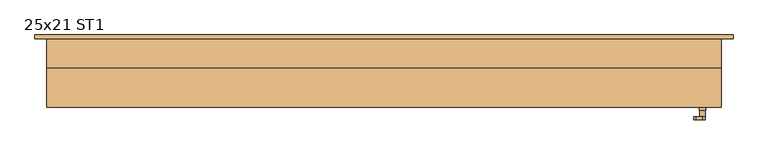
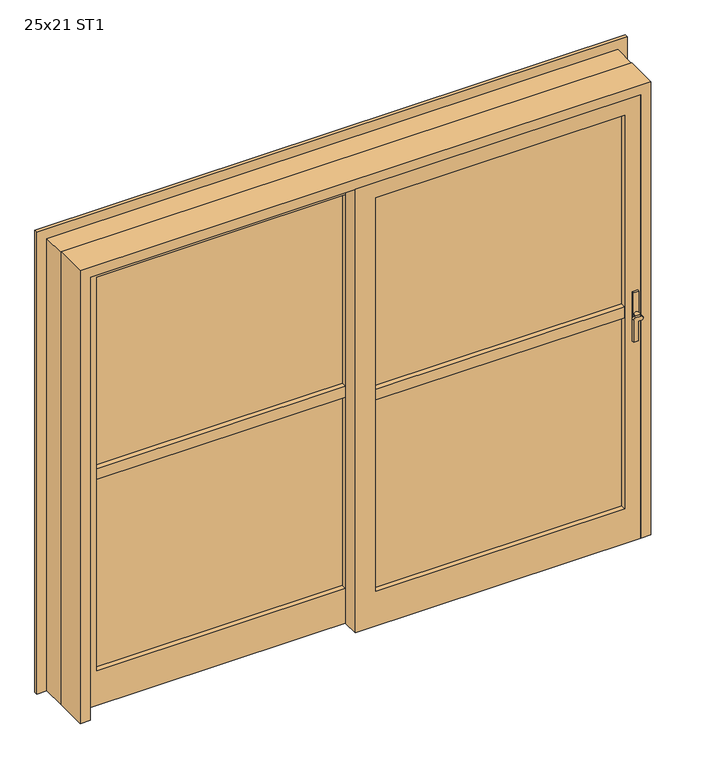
"""IFC4 building model written with IfcOpenShell, lengths in millimetres: door geometry, Balkongdor ST 1 : 25x21 ST1."""

from ifc_helpers import new_model, si_unit, point, frame, frame_2d, origin, place, context, project, spatial, polyline, circle_curve, trimmed, segment, composite_curve, outline, extrude, faceted_brep, source, transform, mapped, element, save


def door_25x21_st1_800ea007(model_context):
    return source(origin(), model_context, "Body", "SolidModel", [
        extrude(outline(composite_curve([segment(trimmed(circle_curve(frame_2d((1050.0, 1152.0)), 10.0), [point((1060.0, 1152.0))], [point((1050.0, 1142.0))], False, "CARTESIAN"), True, "CONTINUOUS"), segment(polyline([(1050.0, 1142.0), (950.0, 1142.0), (950.0, 1162.0), (1040.0, 1162.0), (1040.0, 1174.0)]), True, "CONTINUOUS"), segment(trimmed(circle_curve(frame_2d((1050.0, 1174.0)), 10.0), [point((1040.0, 1174.0))], [point((1060.0, 1174.0))], False, "CARTESIAN"), True, "CONTINUOUS"), segment(polyline([(1060.0, 1174.0), (1060.0, 1152.0)]), True, "CONTINUOUS")], self_intersect=False)), frame((0.0, -15.0, 0.0), z_axis=(0.0, 1.0, 0.0), x_axis=(0.0, 0.0, 1.0)), (0.0, 0.0, 1.0), 10.0),
        extrude(outline(composite_curve([segment(trimmed(circle_curve(frame_2d((1050.0, 1174.0)), 10.0), [point((1050.0, 1184.0))], [point((1050.0, 1164.0))], False, "CARTESIAN"), True, "CONTINUOUS"), segment(trimmed(circle_curve(frame_2d((1050.0, 1174.0)), 10.0), [point((1050.0, 1164.0))], [point((1050.0, 1184.0))], False, "CARTESIAN"), True, "CONTINUOUS")], self_intersect=False)), frame((0.0, -40.0, 0.0), z_axis=(0.0, 1.0, 0.0), x_axis=(0.0, 0.0, 1.0)), (0.0, 0.0, 1.0), 25.0),
        extrude(outline(polyline([(1162.0, -40.0), (1186.0, -40.0), (1186.0, -50.0), (1162.0, -50.0), (1162.0, -40.0)])), frame((0.0, 0.0, 1020.0), z_axis=(0.0, 0.0, 1.0), x_axis=(1.0, 0.0, 0.0)), (0.0, 0.0, 1.0), 130.0),
        extrude(outline(composite_curve([segment(trimmed(circle_curve(frame_2d((1050.0, 1152.0)), 10.0), [point((1060.0, 1152.0))], [point((1050.0, 1142.0))], False, "CARTESIAN"), True, "CONTINUOUS"), segment(polyline([(1050.0, 1142.0), (950.0, 1142.0), (950.0, 1162.0), (1040.0, 1162.0), (1040.0, 1174.0)]), True, "CONTINUOUS"), segment(trimmed(circle_curve(frame_2d((1050.0, 1174.0)), 10.0), [point((1040.0, 1174.0))], [point((1060.0, 1174.0))], False, "CARTESIAN"), True, "CONTINUOUS"), segment(polyline([(1060.0, 1174.0), (1060.0, 1152.0)]), True, "CONTINUOUS")], self_intersect=False)), frame((0.0, -165.0, 0.0), z_axis=(0.0, 1.0, 0.0), x_axis=(0.0, 0.0, 1.0)), (0.0, 0.0, 1.0), 10.0),
        extrude(outline(composite_curve([segment(trimmed(circle_curve(frame_2d((1050.0, 1174.0)), 10.0), [point((1050.0, 1184.0))], [point((1050.0, 1164.0))], False, "CARTESIAN"), True, "CONTINUOUS"), segment(trimmed(circle_curve(frame_2d((1050.0, 1174.0)), 10.0), [point((1050.0, 1164.0))], [point((1050.0, 1184.0))], False, "CARTESIAN"), True, "CONTINUOUS")], self_intersect=False)), frame((0.0, -155.0, 0.0), z_axis=(0.0, 1.0, 0.0), x_axis=(0.0, 0.0, 1.0)), (0.0, 0.0, 1.0), 25.0),
        extrude(outline(polyline([(1162.0, -130.0), (1162.0, -120.0), (1186.0, -120.0), (1186.0, -130.0), (1162.0, -130.0)])), frame((0.0, 0.0, 1020.0), z_axis=(0.0, 0.0, 1.0), x_axis=(1.0, 0.0, 0.0)), (0.0, 0.0, 1.0), 130.0),
        extrude(outline(polyline([(-45.0, 1.0), (-45.0, -23.0), (-1129.0, -23.0), (-1129.0, 1.0), (-45.0, 1.0)])), frame((0.0, 0.0, 160.0), z_axis=(0.0, 0.0, 1.0), x_axis=(1.0, 0.0, 0.0)), (0.0, 0.0, 1.0), 881.5),
        extrude(outline(polyline([(-45.0, 1.0), (-45.0, -23.0), (-1129.0, -23.0), (-1129.0, 1.0), (-45.0, 1.0)])), frame((0.0, 0.0, 1091.5), z_axis=(0.0, 0.0, 1.0), x_axis=(1.0, 0.0, 0.0)), (0.0, 0.0, 1.0), 881.5),
        extrude(outline(polyline([(2043.0, 45.0), (2043.0, -1199.0), (0.0, -1199.0), (0.0, 45.0), (2043.0, 45.0)]), holes=[polyline([(160.0, -1129.0), (1973.0, -1129.0), (1973.0, -45.0), (160.0, -45.0), (160.0, -1129.0)])]), frame((0.0, -46.0, 0.0), z_axis=(0.0, 1.0, 0.0), x_axis=(0.0, 0.0, 1.0)), (0.0, 0.0, 1.0), 70.0),
        extrude(outline(polyline([(45.0, -97.0), (45.0, -73.0), (1129.0, -73.0), (1129.0, -97.0), (45.0, -97.0)])), frame((0.0, 0.0, 160.0), z_axis=(0.0, 0.0, 1.0), x_axis=(1.0, 0.0, 0.0)), (0.0, 0.0, 1.0), 881.5),
        extrude(outline(polyline([(45.0, -97.0), (45.0, -73.0), (1129.0, -73.0), (1129.0, -97.0), (45.0, -97.0)])), frame((0.0, 0.0, 1091.5), z_axis=(0.0, 0.0, 1.0), x_axis=(1.0, 0.0, 0.0)), (0.0, 0.0, 1.0), 881.5),
        extrude(outline(polyline([(0.0, -45.0), (0.0, 1199.0), (2043.0, 1199.0), (2043.0, -45.0), (0.0, -45.0)]), holes=[polyline([(160.0, 1129.0), (160.0, 45.0), (1973.0, 45.0), (1973.0, 1129.0), (160.0, 1129.0)])]), frame((0.0, -120.0, 0.0), z_axis=(0.0, 1.0, 0.0), x_axis=(0.0, 0.0, 1.0)), (0.0, 0.0, 1.0), 70.0),
        extrude(outline(polyline([(0.0, 1244.0), (2088.0, 1244.0), (2088.0, -1244.0), (0.0, -1244.0), (0.0, -1199.0), (2043.0, -1199.0), (2043.0, 1199.0), (0.0, 1199.0), (0.0, 1244.0)])), frame((0.0, -120.0, 0.0), z_axis=(0.0, 1.0, 0.0), x_axis=(0.0, 0.0, 1.0)), (0.0, 0.0, 1.0), 144.0),
        faceted_brep([(-1244.0, 132.0, 0.0), (-1287.0, 132.0, 0.0), (-1287.0, 147.0, 0.0), (-1229.0, 147.0, 0.0), (-1229.0, 24.0, 0.0), (-1244.0, 24.0, 0.0), (-1244.0, 24.0, 2084.0), (-1244.0, 132.0, 2084.0), (-1229.0, 24.0, 2069.0), (1229.0, 24.0, 2069.0), (1229.0, 24.0, 0.0), (1244.0, 24.0, 0.0), (1244.0, 24.0, 2084.0), (-1229.0, 147.0, 2069.0), (-1287.0, 147.0, 2127.0), (1287.0, 147.0, 2127.0), (1287.0, 147.0, 0.0), (1229.0, 147.0, 0.0), (1229.0, 147.0, 2069.0), (-1287.0, 132.0, 2127.0), (1244.0, 132.0, 2084.0), (1244.0, 132.0, 0.0), (1287.0, 132.0, 0.0), (1287.0, 132.0, 2127.0)], [[[0, 1, 2, 3, 4, 5]], [[5, 6, 7, 0]], [[4, 8, 9, 10, 11, 12, 6, 5]], [[3, 13, 8, 4]], [[2, 14, 15, 16, 17, 18, 13, 3]], [[1, 19, 14, 2]], [[0, 7, 20, 21, 22, 23, 19, 1]], [[12, 11, 21, 20]], [[21, 11, 10, 17, 16, 22]], [[18, 17, 10, 9]], [[23, 22, 16, 15]], [[6, 12, 20, 7]], [[13, 18, 9, 8]], [[19, 23, 15, 14]]]),
        extrude(outline(polyline([(1041.5, -1129.0), (1041.5, -45.0), (1091.5, -45.0), (1091.5, -1129.0), (1066.5, -1129.0), (1041.5, -1129.0)])), frame((0.0, -46.0, 0.0), z_axis=(0.0, 1.0, 0.0), x_axis=(0.0, 0.0, 1.0)), (0.0, 0.0, 1.0), 70.0),
        extrude(outline(polyline([(1041.5, 45.0), (1041.5, 1129.0), (1066.5, 1129.0), (1091.5, 1129.0), (1091.5, 45.0), (1041.5, 45.0)])), frame((0.0, -120.0, 0.0), z_axis=(0.0, 1.0, 0.0), x_axis=(0.0, 0.0, 1.0)), (0.0, 0.0, 1.0), 70.0),
    ])


if __name__ == "__main__":
    model = new_model("IFC4")
    model_context = context("Model", 3, world=origin())
    ifc_project = project(units=[si_unit("LENGTHUNIT", "METRE", prefix="MILLI")], contexts=[model_context])
    site = spatial("IfcSite", under=ifc_project)
    building = spatial("IfcBuilding", under=site)
    placement = place(None, origin())
    door_25x21_st1_shape = door_25x21_st1_800ea007(model_context)
    element("IfcDoor", 1, ObjectType="Balkongdor ST 1 : 25x21 ST1", at=placement, inside=building, context=model_context, shape_type="MappedRepresentation", body=[
        mapped(door_25x21_st1_shape, transform((0.0, 0.0, 0.0), x_axis=(1.0, 0.0, 0.0), y_axis=(0.0, 1.0, 0.0), z_axis=(0.0, 0.0, 1.0))),
    ])
    save(model, "model.ifc")
